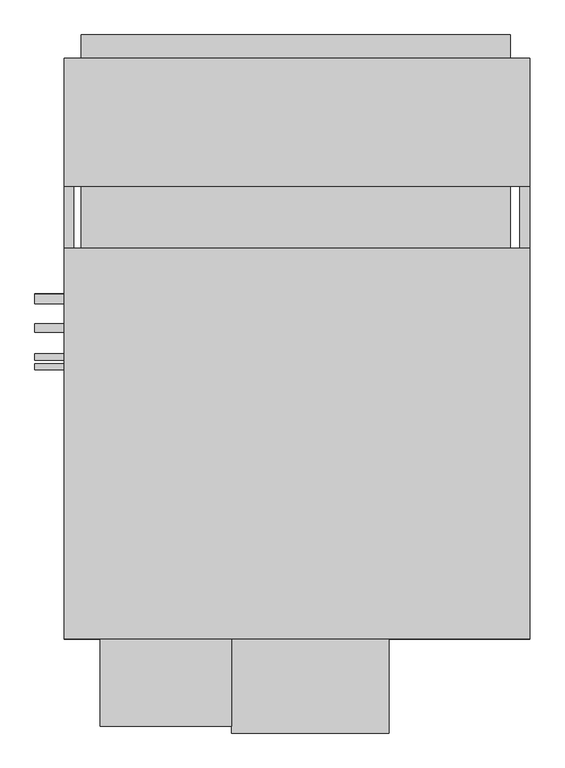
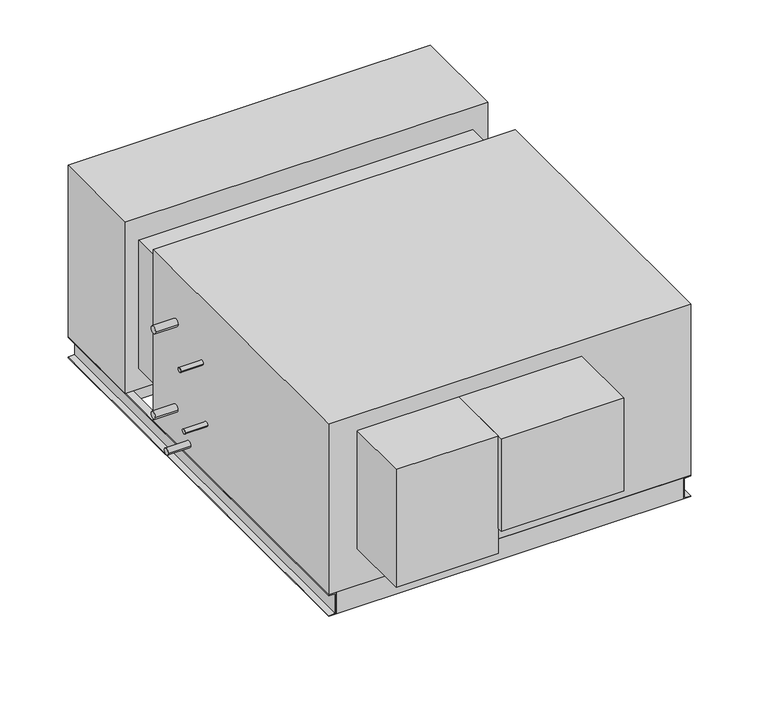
"""IFC4 building model written with IfcOpenShell, lengths in millimetres: proxy geometry, Horizontal_Direct_Drive_Blower_Coil_Unit_-_42DHA_-_CARRIER_-_4-Pipe_NFilterR_W-MixingBox_LH_2022 : Size 20 - 460v/60Hz/3Ph - 6/2 Coil."""

from ifc_helpers import new_model, si_unit, point, frame, frame_2d, origin, place, context, project, spatial, polyline, circle_curve, trimmed, segment, composite_curve, outline, extrude, source, transform, mapped, element, save


def mechanical_equipment_9a64f870(model_context):
    return source(origin(), model_context, "Body", "SweptSolid", [
        extrude(outline(polyline([(101.6, 887.095), (101.6, 683.895), (-1022.35, 683.895), (-1022.35, 887.095), (101.6, 887.095)])), frame((0.0, 0.0, -670.56), z_axis=(0.0, 0.0, 1.0), x_axis=(1.0, 0.0, 0.0)), (0.0, 0.0, 1.0), 60.96),
        extrude(outline(polyline([(-1022.35, 1049.655), (101.6, 1049.655), (101.6, 988.695), (-1022.35, 988.695), (-1022.35, 1049.655)])), frame((0.0, 0.0, -279.4), z_axis=(0.0, 0.0, 1.0), x_axis=(1.0, 0.0, 0.0)), (0.0, 0.0, 1.0), 203.2),
        extrude(outline(polyline([(152.4, 988.695), (152.4, 654.05), (-1066.8, 654.05), (-1066.8, 988.695), (152.4, 988.695)])), frame((0.0, 0.0, -609.6), z_axis=(0.0, 0.0, 1.0), x_axis=(1.0, 0.0, 0.0)), (0.0, 0.0, 1.0), 609.6),
        extrude(outline(polyline([(127.0, -504.825), (127.0, -530.225), (-1041.4, -530.225), (-1041.4, -504.825), (127.0, -504.825)])), frame((0.0, 0.0, -685.8), z_axis=(0.0, 0.0, 1.0), x_axis=(1.0, 0.0, 0.0)), (0.0, 0.0, 1.0), 76.2),
        extrude(outline(polyline([(127.0, 988.695), (127.0, 963.295), (-1041.4, 963.295), (-1041.4, 988.695), (127.0, 988.695)])), frame((0.0, 0.0, -685.8), z_axis=(0.0, 0.0, 1.0), x_axis=(1.0, 0.0, 0.0)), (0.0, 0.0, 1.0), 76.2),
        extrude(outline(polyline([(-609.6, -1041.4), (-609.6, -1066.8), (-612.775, -1066.8), (-612.775, -1044.575), (-682.625, -1044.575), (-682.625, -1066.8), (-685.8, -1066.8), (-685.8, -1041.4), (-609.6, -1041.4)])), frame((0.0, -530.225, 0.0), z_axis=(0.0, 1.0, 0.0), x_axis=(0.0, 0.0, 1.0)), (0.0, 0.0, 1.0), 1518.92),
        extrude(outline(polyline([(-609.6, 127.0), (-685.8, 127.0), (-685.8, 152.4), (-682.625, 152.4), (-682.625, 130.175), (-612.775, 130.175), (-612.775, 152.4), (-609.6, 152.4), (-609.6, 127.0)])), frame((0.0, -530.225, 0.0), z_axis=(0.0, 1.0, 0.0), x_axis=(0.0, 0.0, 1.0)), (0.0, 0.0, 1.0), 1518.92),
        extrude(outline(composite_curve([segment(trimmed(circle_curve(frame_2d((358.775, -177.8)), 12.7), [point((371.475, -177.8))], [point((346.075, -177.8))], False, "CARTESIAN"), True, "CONTINUOUS"), segment(trimmed(circle_curve(frame_2d((358.775, -177.8)), 12.7), [point((346.075, -177.8))], [point((371.475, -177.8))], False, "CARTESIAN"), True, "CONTINUOUS")], self_intersect=False)), frame((-1143.0, 0.0, 0.0), z_axis=(1.0, 0.0, 0.0), x_axis=(0.0, 1.0, 0.0)), (0.0, 0.0, 1.0), 76.2),
        extrude(outline(composite_curve([segment(trimmed(circle_curve(frame_2d((359.642288, -482.6)), 12.7), [point((372.342288, -482.6))], [point((346.942288, -482.6))], False, "CARTESIAN"), True, "CONTINUOUS"), segment(trimmed(circle_curve(frame_2d((359.642288, -482.6)), 12.7), [point((346.942288, -482.6))], [point((372.342288, -482.6))], False, "CARTESIAN"), True, "CONTINUOUS")], self_intersect=False)), frame((-1143.0, 0.0, 0.0), z_axis=(1.0, 0.0, 0.0), x_axis=(0.0, 1.0, 0.0)), (0.0, 0.0, 1.0), 76.2),
        extrude(outline(composite_curve([segment(trimmed(circle_curve(frame_2d((283.442288, -565.15)), 11.1125), [point((294.554788, -565.15))], [point((272.329788, -565.15))], False, "CARTESIAN"), True, "CONTINUOUS"), segment(trimmed(circle_curve(frame_2d((283.442288, -565.15)), 11.1125), [point((272.329788, -565.15))], [point((294.554788, -565.15))], False, "CARTESIAN"), True, "CONTINUOUS")], self_intersect=False)), frame((-1143.0, 0.0, 0.0), z_axis=(1.0, 0.0, 0.0), x_axis=(0.0, 1.0, 0.0)), (0.0, 0.0, 1.0), 76.2),
        extrude(outline(composite_curve([segment(trimmed(circle_curve(frame_2d((207.242288, -228.6)), 7.9375), [point((215.179788, -228.6))], [point((199.304788, -228.6))], False, "CARTESIAN"), True, "CONTINUOUS"), segment(trimmed(circle_curve(frame_2d((207.242288, -228.6)), 7.9375), [point((199.304788, -228.6))], [point((215.179788, -228.6))], False, "CARTESIAN"), True, "CONTINUOUS")], self_intersect=False)), frame((-1143.0, 0.0, 0.0), z_axis=(1.0, 0.0, 0.0), x_axis=(0.0, 1.0, 0.0)), (0.0, 0.0, 1.0), 76.2),
        extrude(outline(composite_curve([segment(trimmed(circle_curve(frame_2d((181.842288, -432.0792556)), 7.9375), [point((189.779788, -432.0792556))], [point((173.904788, -432.0792556))], False, "CARTESIAN"), True, "CONTINUOUS"), segment(trimmed(circle_curve(frame_2d((181.842288, -432.0792556)), 7.9375), [point((173.904788, -432.0792556))], [point((189.779788, -432.0792556))], False, "CARTESIAN"), True, "CONTINUOUS")], self_intersect=False)), frame((-1143.0, 0.0, 0.0), z_axis=(1.0, 0.0, 0.0), x_axis=(0.0, 1.0, 0.0)), (0.0, 0.0, 1.0), 76.2),
        extrude(outline(polyline([(152.4, 492.125), (152.4, -530.225), (-1066.8, -530.225), (-1066.8, 492.125), (152.4, 492.125)])), frame((0.0, 0.0, -609.6), z_axis=(0.0, 0.0, 1.0), x_axis=(1.0, 0.0, 0.0)), (0.0, 0.0, 1.0), 609.6),
        extrude(outline(polyline([(-628.65, -758.825), (-971.55, -758.825), (-971.55, -530.225), (-628.65, -530.225), (-628.65, -758.825)])), frame((0.0, 0.0, -476.25), z_axis=(0.0, 0.0, 1.0), x_axis=(1.0, 0.0, 0.0)), (0.0, 0.0, 1.0), 419.1),
        extrude(outline(polyline([(-1022.35, 654.05), (101.6, 654.05), (101.6, 492.125), (-1022.35, 492.125), (-1022.35, 654.05)])), frame((0.0, 0.0, -536.575), z_axis=(0.0, 0.0, 1.0), x_axis=(1.0, 0.0, 0.0)), (0.0, 0.0, 1.0), 457.2),
        extrude(outline(polyline([(-215.9, -776.2875), (-628.65, -776.2875), (-628.65, -530.225), (-215.9, -530.225), (-215.9, -776.2875)])), frame((0.0, 0.0, -387.35), z_axis=(0.0, 0.0, 1.0), x_axis=(1.0, 0.0, 0.0)), (0.0, 0.0, 1.0), 330.2),
    ])


if __name__ == "__main__":
    model = new_model("IFC4")
    model_context = context("Model", 3, world=origin())
    ifc_project = project(units=[si_unit("LENGTHUNIT", "METRE", prefix="MILLI")], contexts=[model_context])
    site = spatial("IfcSite", under=ifc_project)
    building = spatial("IfcBuilding", under=site)
    placement = place(None, origin())
    mechanical_equipment_shape = mechanical_equipment_9a64f870(model_context)
    element("IfcBuildingElementProxy", 1, Name="Horizontal_Direct_Drive_Blower_Coil_Unit_-_42DHA_-_CARRIER_-_4-Pipe_NFilterR_W-MixingBox_LH_2022 : Size 20 - 460v/60Hz/3Ph - 6/2 Coil", ObjectType="Horizontal_Direct_Drive_Blower_Coil_Unit_-_42DHA_-_CARRIER_-_4-Pipe_NFilterR_W-MixingBox_LH_2022 : Size 20 - 460v/60Hz/3Ph - 6/2 Coil", at=placement, inside=building, context=model_context, shape_type="MappedRepresentation", body=[
        mapped(mechanical_equipment_shape, transform((0.0, 0.0, 0.0), x_axis=(1.0, 0.0, 0.0), y_axis=(0.0, 1.0, 0.0), z_axis=(0.0, 0.0, 1.0))),
    ])
    save(model, "model.ifc")
